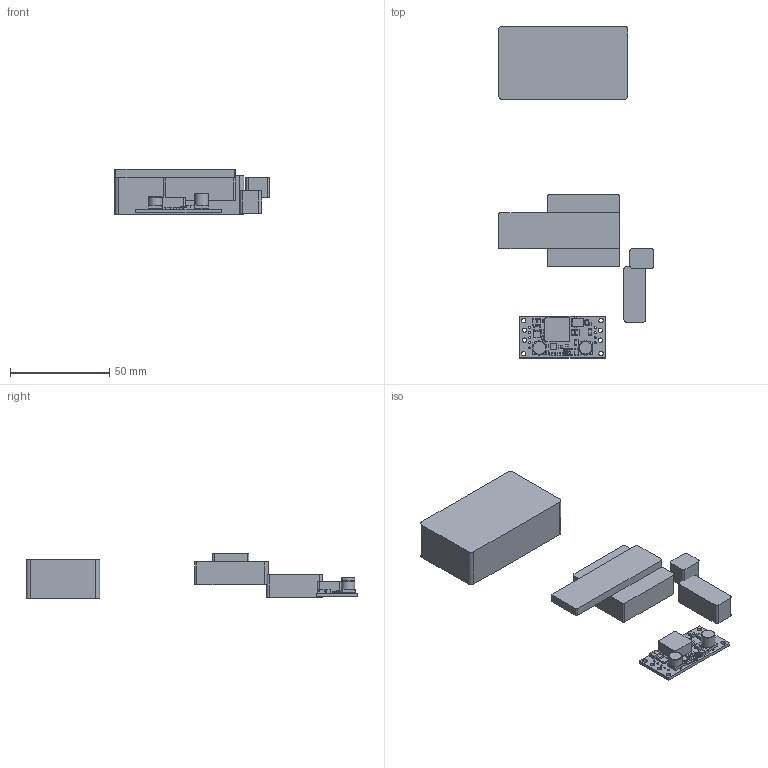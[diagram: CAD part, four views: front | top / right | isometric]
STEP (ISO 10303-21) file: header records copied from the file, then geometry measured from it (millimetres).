
FILE_DESCRIPTION(('Open CASCADE Model'),'2;1');
FILE_NAME('Open CASCADE Shape Model','2026-11-21T20:31:39',('Author'),( 'Open CASCADE'),'Open CASCADE STEP processor 7.9','Open CASCADE 7.9' ,'Unknown');
FILE_SCHEMA(('AUTOMOTIVE_DESIGN { 1 0 10303 214 1 1 1 1 }'));
Length unit declared in the file: millimetre
Products named in the file (7): DSH-5 Rev D internal parts and fit allowances; Protected 3S pack and wrap, 65 by 37 by 20 mm; Teensy 4.1 installed board and card envelope; Stacked audio adapter and header envelope; Chassis brake resistor and mounting allowance; Isolated headphone feedthrough and cable tail; Pololu S18V20F12 chassis installation
Assembly tree (6 placements, depth 2):
  DSH-5 Rev D internal parts and fit allowances
    Protected 3S pack and wrap, 65 by 37 by 20 mm
    Teensy 4.1 installed board and card envelope
    Stacked audio adapter and header envelope
    Chassis brake resistor and mounting allowance
    Isolated headphone feedthrough and cable tail
    Pololu S18V20F12 chassis installation
Bounding box: 77.93 x 167 x 23.08 mm (x, y, z)
Volume: 75516.8 mm3; surface area: 21367.7 mm2
Topology: 10 solids, 10 shells, 1035 faces, 2732 edges, 1776 vertices
Faces by surface type: plane 802, bspline 142, cylinder 82, torus 5, sphere 4
Full cylindrical faces by diameter (mm): 0.25 x1, 1.016 x9, 2.184 x8, 2.5 x1, 6.8 x2
Entity records: 74842 total; most frequent: CARTESIAN_POINT 21763, DIRECTION 8930, LINE 6698, VECTOR 6698, ORIENTED_EDGE 5456, PCURVE 5456, DEFINITIONAL_REPRESENTATION 5456, EDGE_CURVE 2728
